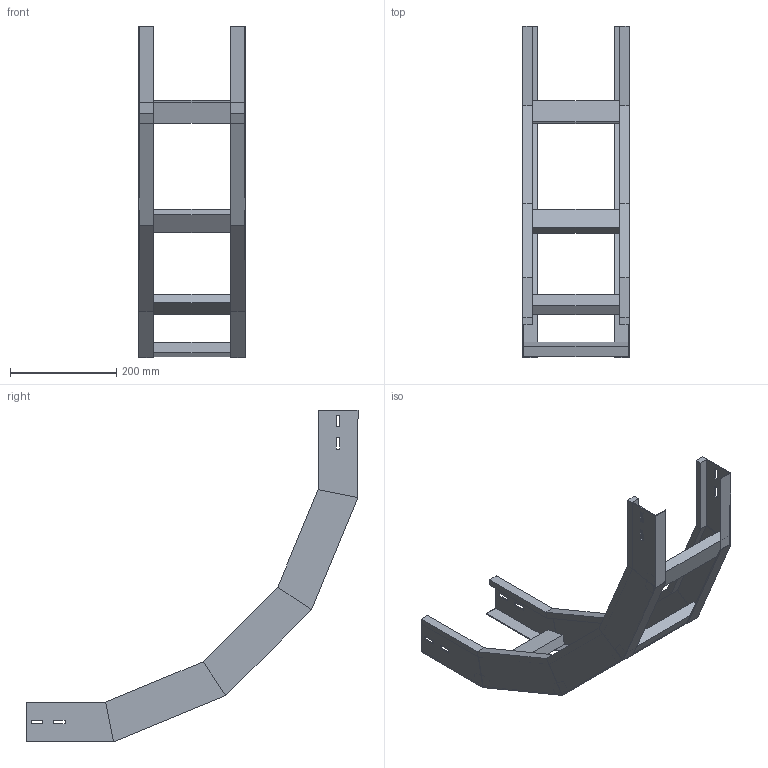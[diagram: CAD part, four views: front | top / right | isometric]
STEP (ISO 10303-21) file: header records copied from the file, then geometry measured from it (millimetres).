
FILE_DESCRIPTION (( 'STEP AP214' ), '1' );
FILE_NAME ('A2X30B5C200XX.step', '2025-03-20T10:24:36', ( '' ), ( '' ), 'SwSTEP 2.0', 'SolidWorks 2023', '' );
FILE_SCHEMA (( 'AUTOMOTIVE_DESIGN' ));
Length unit declared in the file: millimetre
Products named in the file (3): LONGH.SALITA_90°_H75_R500; A2X30B5C200XX; TRAVERSINO_200
Assembly tree (6 placements, depth 2):
  A2X30B5C200XX
    LONGH.SALITA_90°_H75_R500  x2
    TRAVERSINO_200  x4
Bounding box: 200 x 624.12 x 624.12 mm (x, y, z)
Volume: 1367170.9 mm3; surface area: 554323.8 mm2
Topology: 6 solids, 6 shells, 140 faces, 320 edges, 192 vertices
Faces by surface type: plane 140
Entity records: 1872 total; most frequent: CARTESIAN_POINT 309, ORIENTED_EDGE 296, DIRECTION 294, VECTOR 148, LINE 148, EDGE_CURVE 148, VERTEX_POINT 88, AXIS2_PLACEMENT_3D 73
